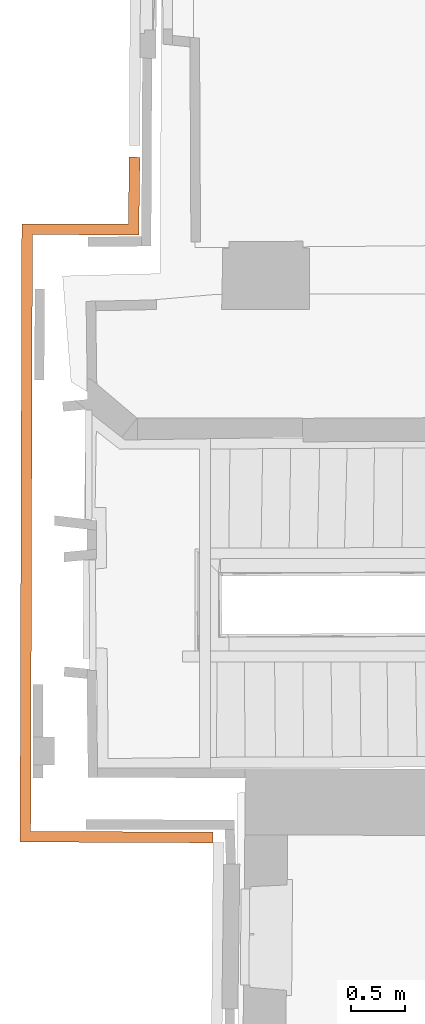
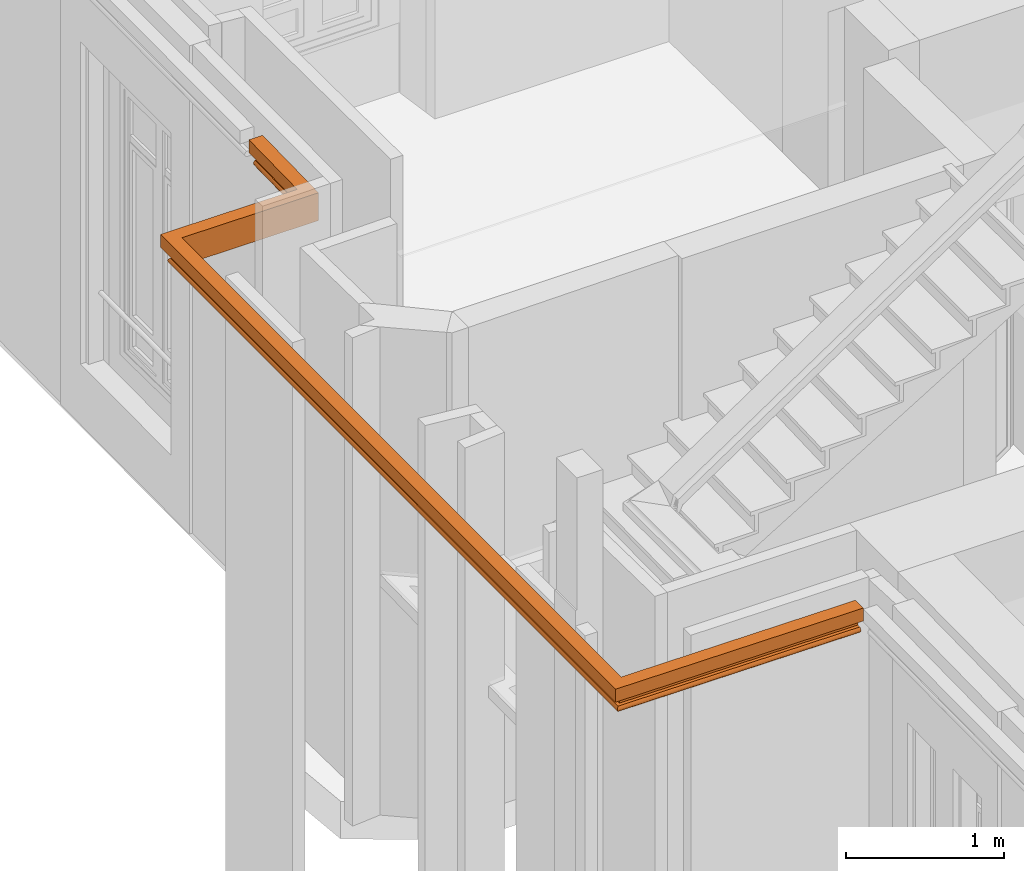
# One storey, part 63 of 66: 1 proxy.
"""IFC2X3 building model written with IfcOpenShell, lengths in centimetres."""

from ifc_helpers import new_model, entity, si_unit, converted_unit, direction, frame, origin, origin_with_axes, place, context, subcontext, project, spatial, faceted_brep, material, type_object, element, save


model = new_model("IFC2X3")

# Units and contexts
model_context = context("Model", 3, precision=0.0001, world=origin(), true_north=direction((0.225632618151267, 0.974212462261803, 0.0)))
body_context = subcontext(model_context, "Body", "Model", "MODEL_VIEW")
ifc_project = project(units=[si_unit("LENGTHUNIT", "METRE", prefix="CENTI"), si_unit("AREAUNIT", "SQUARE_METRE", prefix="CENTI"), si_unit("VOLUMEUNIT", "CUBIC_METRE", prefix="CENTI"), converted_unit("PLANEANGLEUNIT", "DEGREE", entity("IfcRatioMeasure", 0.0174532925), si_unit("PLANEANGLEUNIT", "RADIAN"), dimensions=[0, 0, 0, 0, 0, 0, 0])], contexts=[model_context])

# Site, building, storey
site_placement = place(None, origin_with_axes())
site = spatial("IfcSite", under=ifc_project, at=site_placement, Name="Default Site", CompositionType="ELEMENT")
building_placement = place(site_placement, origin_with_axes())
building = spatial("IfcBuilding", under=site, at=building_placement, Name="Default Building", CompositionType="ELEMENT")
storey_placement = place(building_placement, frame((0.0, 0.0, 477.795358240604), z_axis=(0.0, 0.0, 1.0), x_axis=(1.0, 0.0, 0.0)))
storey = spatial("IfcBuildingStorey", under=building, at=storey_placement, Name="Niveau 1", CompositionType="ELEMENT", Elevation=477.795358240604)

# Proxy
ifc_material = material(Name="Aluminium mat")
building_element_proxy_type = type_object("IfcBuildingElementProxyType", Name="Corniche niv1", PredefinedType="NOTDEFINED", material=ifc_material)
proxy_placement = place(storey_placement, origin_with_axes())
element("IfcBuildingElementProxy", 1, at=proxy_placement, inside=storey, type_object=building_element_proxy_type, material=ifc_material, Name="Extrusion (solide) 449947", context=body_context, shape_type="Brep", body=[
    faceted_brep([(-1361.89584732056, -342.840051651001, 363.400034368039), (-1371.91095352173, -352.781081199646, 363.400034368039), (-1191.69054031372, -353.596115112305, 363.400034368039), (-1191.64533615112, -343.610000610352, 363.400034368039), (-1371.91095352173, -352.781081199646, 353.399996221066), (-1191.69054027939, -353.596107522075, 353.399996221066), (-1191.69054027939, -353.596107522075, 363.400034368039), (-1364.90459442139, -345.826482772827, 353.399996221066), (-1191.65897369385, -346.609973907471, 353.399996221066), (-1191.69054031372, -353.596115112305, 353.399996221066), (-1364.90459442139, -345.826482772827, 346.100000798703), (-1191.65897365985, -346.609966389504, 346.100000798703), (-1191.65897365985, -346.609966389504, 353.399996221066), (-1367.38014221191, -348.283791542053, 346.100000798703), (-1191.67013168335, -349.078416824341, 346.100000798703), (-1191.65897369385, -346.609973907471, 346.100000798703), (-1367.73767466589, -348.638643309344, 345.875584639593), (-1191.67175287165, -349.434887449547, 345.875580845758), (-1191.67013168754, -349.078417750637, 346.100002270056), (-1367.73767471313, -348.638653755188, 345.875601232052), (-1368.04809578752, -348.946828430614, 345.589900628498), (-1191.67308817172, -349.744460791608, 345.589903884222), (-1191.67175291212, -349.434896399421, 345.875597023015), (-1368.04809570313, -348.946809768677, 345.589880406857), (-1368.30110542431, -349.197895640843, 345.252553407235), (-1191.6742324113, -349.996670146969, 345.252553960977), (-1191.67308809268, -349.744443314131, 345.589883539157), (-1368.30110549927, -349.197912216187, 345.252565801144), (-1368.48812111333, -349.383562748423, 344.87482420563), (-1191.67509090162, -350.183177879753, 344.874827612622), (-1191.67423248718, -349.996686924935, 345.252566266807), (-1368.48812103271, -349.383544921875, 344.874815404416), (-1368.60294329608, -349.497457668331, 344.469496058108), (-1191.67566287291, -350.297591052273, 344.469496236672), (-1191.67509082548, -350.183161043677, 344.874817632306), (-1368.60294342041, -349.497485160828, 344.469503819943), (-1368.64156735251, -349.535897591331, 344.049984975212), (-1191.67575841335, -350.336205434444, 344.049983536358), (-1191.67566299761, -350.297618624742, 344.469503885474), (-1368.64156723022, -349.535870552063, 344.049982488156), (-1368.60294333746, -349.497466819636, 343.630558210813), (-1191.67566291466, -350.29760028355, 343.630558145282), (-1191.67575829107, -350.336178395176, 344.04998392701), (-1368.60294342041, -349.497485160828, 343.6305565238), (-1368.48812104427, -349.383547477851, 343.225148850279), (-1191.67509083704, -350.183163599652, 343.225146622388), (-1191.67566299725, -350.29761854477, 343.630556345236), (-1368.48812103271, -349.383544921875, 343.225149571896), (-1368.30110558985, -349.197932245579, 342.847484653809), (-1191.67423257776, -349.996706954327, 342.847484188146), (-1191.675090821, -350.183160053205, 343.225146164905), (-1368.30110549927, -349.197912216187, 342.847494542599), (-1368.04809557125, -348.946780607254, 342.510106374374), (-1191.6730879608, -349.744414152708, 342.510103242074), (-1191.67423248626, -349.996686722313, 342.847493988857), (-1368.04809570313, -348.946809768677, 342.510084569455), (-1367.73767484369, -348.638682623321, 342.224427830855), (-1191.67175304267, -349.434925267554, 342.224432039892), (-1191.67308808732, -349.74444212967, 342.51008131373), (-1367.73767471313, -348.638653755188, 342.224459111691), (-1367.3801420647, -348.283758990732, 342.000015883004), (-1191.67013154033, -349.078385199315, 342.000014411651), (-1191.67175291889, -349.434897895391, 342.224462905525), (-1367.38014221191, -348.283791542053, 341.999964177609), (-1361.89584732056, -342.840051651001, 341.999964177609), (-1191.64533615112, -343.610000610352, 341.999964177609), (-1191.67013168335, -349.078416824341, 341.999964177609), (-1191.64533610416, -343.609990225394, 363.400034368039), (-1191.64533610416, -343.609990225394, 341.999964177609), (-1360.28003692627, 214.219999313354, 363.400034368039), (-1370.237159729, 224.235129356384, 363.400034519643), (-1371.91095352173, -352.781081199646, 363.400030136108), (-1361.89584732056, -342.840051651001, 363.400030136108), (-1370.237159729, 224.235129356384, 363.400034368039), (-1370.23715980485, 224.235129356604, 353.399996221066), (-1371.91093008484, -352.78108126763, 353.399996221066), (-1371.91093000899, -352.78108126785, 363.400034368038), (-1370.237159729, 224.235129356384, 353.399996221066), (-1363.27133178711, 217.228698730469, 353.399996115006), (-1364.90459442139, -345.826482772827, 353.399991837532), (-1371.91095352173, -352.781081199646, 353.399991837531), (-1363.27133178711, 217.228698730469, 353.399996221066), (-1363.27133184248, 217.228698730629, 346.100000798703), (-1364.90460489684, -345.826482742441, 346.100000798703), (-1364.90460484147, -345.826482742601, 353.399996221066), (-1363.27133178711, 217.228698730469, 346.100000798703), (-1365.73257446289, 219.70431804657, 346.100000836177), (-1367.38014221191, -348.283791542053, 346.099996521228), (-1364.90459442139, -345.826482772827, 346.099996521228), (-1365.73257446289, 219.70431804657, 346.100000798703), (-1366.08799999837, 220.061826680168, 345.875587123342), (-1367.73765894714, -348.638653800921, 345.875576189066), (-1367.38014432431, -348.283791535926, 346.100004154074), (-1366.08800888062, 220.061826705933, 345.875601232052), (-1366.39671035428, 220.372271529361, 345.589877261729), (-1368.04811845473, -348.946809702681, 345.589905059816), (-1367.73766459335, -348.638653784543, 345.875590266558), (-1366.39671325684, 220.372271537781, 345.589880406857), (-1366.64819815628, 220.625257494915, 345.252566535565), (-1368.30110240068, -349.197912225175, 345.252563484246), (-1368.04813245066, -348.946809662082, 345.589907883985), (-1366.64819717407, 220.625257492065, 345.252565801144), (-1366.83415607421, 220.812273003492, 344.87481165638), (-1368.48813482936, -349.383544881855, 344.874822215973), (-1368.30110123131, -349.197912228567, 345.252563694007), (-1366.83416366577, 220.812273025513, 344.874815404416), (-1366.94825717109, 220.927047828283, 344.46951343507), (-1368.60291081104, -349.497485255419, 344.469494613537), (-1368.48814651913, -349.383544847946, 344.874822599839), (-1366.94822311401, 220.927047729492, 344.469503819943), (-1366.98669842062, 220.965742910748, 344.049977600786), (-1368.64157074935, -349.535870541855, 344.049982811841), (-1368.60287292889, -349.497485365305, 344.469497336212), (-1366.9867515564, 220.96574306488, 344.049982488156), (-1366.9482849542, 220.927047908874, 343.63055083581), (-1368.6029355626, -349.497485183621, 343.630557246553), (-1368.64162467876, -349.53587038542, 344.049977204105), (-1366.94822311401, 220.927047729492, 343.6305565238), (-1366.83410468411, 220.812272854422, 343.225166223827), (-1368.48808983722, -349.383545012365, 343.225158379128), (-1368.60287905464, -349.497485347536, 343.630574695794), (-1366.83416366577, 220.812273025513, 343.225149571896), (-1366.64824263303, 220.62525762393, 342.847472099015), (-1368.30115014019, -349.197912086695, 342.847472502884), (-1368.48814587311, -349.38354484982, 343.225137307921), (-1366.64819717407, 220.625257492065, 342.847494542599), (-1366.39666653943, 220.372271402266, 342.510119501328), (-1368.04808987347, -348.946809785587, 342.510088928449), (-1368.30110556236, -349.197912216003, 342.847494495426), (-1366.39671325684, 220.372271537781, 342.510084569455), (-1366.08805931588, 220.061826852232, 342.224404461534), (-1367.73771933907, -348.63865362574, 342.22441075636), (-1368.04812567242, -348.946809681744, 342.510052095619), (-1366.08800888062, 220.061826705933, 342.224459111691), (-1365.73254035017, 219.704317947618, 342.000018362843), (-1367.3801141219, -348.283791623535, 342.000008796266), (-1367.73767174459, -348.638653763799, 342.224463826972), (-1365.73257446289, 219.70431804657, 341.999964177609), (-1360.28003692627, 214.219999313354, 341.99996409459), (-1361.89584732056, -342.840051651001, 341.999959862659), (-1367.38014221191, -348.283791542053, 341.999959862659), (-1360.28003692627, 214.219999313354, 341.999964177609), (-1360.28003676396, 214.219999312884, 363.400034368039), (-1361.89591954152, -342.840051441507, 363.400034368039), (-1361.89591970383, -342.840051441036, 341.999964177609), (-1260.97440719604, 213.931941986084, 363.400034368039), (-1270.81871032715, 223.946762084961, 363.400034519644), (-1370.237159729, 224.235129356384, 363.400034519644), (-1270.81871032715, 223.946762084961, 363.400034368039), (-1270.81871032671, 223.946762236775, 353.399996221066), (-1370.23715967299, 224.235148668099, 353.399996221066), (-1370.23715967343, 224.235148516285, 363.400034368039), (-1270.81871032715, 223.946762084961, 353.399996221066), (-1263.93175125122, 216.940522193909, 353.399996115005), (-1263.93175125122, 216.940522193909, 353.399996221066), (-1263.9317512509, 216.940522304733, 346.100000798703), (-1363.27133184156, 217.228679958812, 346.100000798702), (-1363.27133184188, 217.228679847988, 353.399996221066), (-1263.93175125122, 216.940522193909, 346.100000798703), (-1266.36514663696, 219.416093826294, 346.100000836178), (-1365.73257446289, 219.70431804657, 346.100000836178), (-1266.36514663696, 219.416093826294, 346.100000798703), (-1266.71657564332, 219.773571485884, 345.875589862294), (-1366.08800889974, 220.061820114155, 345.875590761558), (-1365.73257445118, 219.704322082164, 346.100007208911), (-1266.71657562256, 219.773578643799, 345.875601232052), (-1267.02175135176, 220.084041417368, 345.589899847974), (-1366.39671318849, 220.372295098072, 345.58990593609), (-1366.08800887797, 220.061827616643, 345.875602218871), (-1267.02175140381, 220.084023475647, 345.589880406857), (-1267.27037433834, 220.336971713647, 345.252555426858), (-1366.64819722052, 220.625241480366, 345.252553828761), (-1366.39671323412, 220.37227936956, 345.589886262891), (-1267.2703742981, 220.336985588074, 345.252565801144), (-1267.45424266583, 220.524015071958, 344.8748222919), (-1366.83416361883, 220.812289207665, 344.874823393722), (-1366.64819718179, 220.625254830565, 345.252564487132), (-1267.4542427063, 220.524001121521, 344.874815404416), (-1267.56706242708, 220.638758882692, 344.469499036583), (-1366.94822314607, 220.927036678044, 344.469500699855), (-1366.83416365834, 220.812275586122, 344.874816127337), (-1267.56706237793, 220.6387758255, 344.469503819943), (-1267.60501861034, 220.677473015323, 344.049982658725), (-1366.98675152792, 220.965752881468, 344.049983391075), (-1366.94822309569, 220.927054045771, 344.469504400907), (-1267.60501861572, 220.677471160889, 344.049982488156), (-1267.56706235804, 220.638782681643, 343.63055589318), (-1366.9482230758, 220.927060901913, 343.630555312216), (-1366.9867515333, 220.965751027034, 344.049981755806), (-1267.56706237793, 220.6387758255, 343.6305565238), (-1267.45424272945, 220.523993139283, 343.225151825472), (-1366.8341636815, 220.812267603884, 343.225151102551), (-1366.94822309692, 220.927053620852, 343.630554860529), (-1267.4542427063, 220.524001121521, 343.225149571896), (-1267.27037422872, 220.3370095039, 342.847482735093), (-1366.64819711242, 220.625278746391, 342.847484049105), (-1366.8341636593, 220.812275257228, 343.225148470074), (-1267.2703742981, 220.336985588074, 342.847494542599), (-1267.02175149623, 220.083991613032, 342.510108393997), (-1366.39671332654, 220.372247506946, 342.510102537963), (-1366.64819718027, 220.625255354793, 342.847496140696), (-1267.02175140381, 220.084023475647, 342.510084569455), (-1266.7165755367, 219.773608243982, 342.224427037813), (-1366.08800879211, 220.061857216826, 342.224426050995), (-1366.39671324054, 220.372277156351, 342.510078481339), (-1266.71657562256, 219.773578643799, 342.224459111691), (-1266.36514674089, 219.416057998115, 342.000021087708), (-1365.73257455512, 219.704286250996, 342.000014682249), (-1366.08800887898, 220.061827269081, 342.224458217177), (-1266.36514663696, 219.416093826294, 341.999964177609), (-1260.97440719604, 213.931941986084, 341.999964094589), (-1260.97440719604, 213.931941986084, 341.999964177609), (-1260.97440719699, 213.931941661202, 363.400034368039), (-1360.28003692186, 214.220000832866, 363.400034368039), (-1360.28003692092, 214.220001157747, 341.999964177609), (-1259.93995666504, 286.400008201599, 363.400034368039), (-1269.92521286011, 286.542534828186, 363.400034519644), (-1269.92521286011, 286.542534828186, 363.400034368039), (-1269.92521301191, 286.542534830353, 353.399996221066), (-1270.81869792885, 223.946761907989, 353.399996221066), (-1270.81869777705, 223.946761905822, 363.400034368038), (-1269.92521286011, 286.542534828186, 353.399996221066), (-1262.93973922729, 286.442828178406, 353.399996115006), (-1262.93973922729, 286.442828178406, 353.399996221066), (-1262.93973933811, 286.442828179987, 346.100000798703), (-1263.93180730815, 216.940522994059, 346.100000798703), (-1263.93180719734, 216.940522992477, 353.399996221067), (-1262.93973922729, 286.442828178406, 346.100000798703), (-1265.40794372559, 286.478042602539, 346.100000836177), (-1266.36514663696, 219.416093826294, 346.100000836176), (-1263.93175125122, 216.940522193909, 346.100000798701), (-1265.40794372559, 286.478042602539, 346.100000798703), (-1265.76433580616, 286.483144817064, 345.875607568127), (-1266.7165684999, 219.773578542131, 345.875589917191), (-1266.36515560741, 219.416093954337, 346.100015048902), (-1265.76433181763, 286.483144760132, 345.875601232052), (-1266.07389597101, 286.487555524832, 345.58988200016), (-1267.02174342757, 220.084023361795, 345.589871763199), (-1266.71655761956, 219.773578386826, 345.875581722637), (-1266.07389450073, 286.487555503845, 345.589880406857), (-1266.32610652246, 286.491155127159, 345.252539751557), (-1267.27036771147, 220.336985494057, 345.252560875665), (-1267.02173822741, 220.084023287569, 345.589870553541), (-1266.32614135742, 286.49115562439, 345.252565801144), (-1266.51261386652, 286.493826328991, 344.874829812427), (-1267.45426200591, 220.524001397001, 344.874824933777), (-1267.27040975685, 220.336986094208, 345.252583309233), (-1266.51258468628, 286.493825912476, 344.874815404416), (-1266.62700362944, 286.495446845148, 344.469497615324), (-1267.56703466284, 220.638775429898, 344.469495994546), (-1267.45423131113, 220.524000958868, 344.874812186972), (-1266.62702560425, 286.495447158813, 344.469503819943), (-1266.66560818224, 286.495996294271, 344.049987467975), (-1267.6050940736, 220.677472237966, 344.049989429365), (-1267.56705623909, 220.638775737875, 344.469503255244), (-1266.66555404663, 286.495995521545, 344.049982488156), (-1266.62698018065, 286.495446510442, 343.630560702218), (-1267.56701075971, 220.638775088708, 343.630561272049), (-1267.60503988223, 220.677471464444, 344.049980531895), (-1266.62702560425, 286.495447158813, 343.6305565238), (-1266.51258173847, 286.493825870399, 343.225150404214), (-1267.45422836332, 220.524000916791, 343.225153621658), (-1267.56705663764, 220.638775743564, 343.630558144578), (-1266.51258468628, 286.493825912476, 343.225149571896), (-1266.32615003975, 286.49115574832, 342.84749025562), (-1267.27041843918, 220.336986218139, 342.847472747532), (-1267.45423282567, 220.524000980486, 343.225154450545), (-1266.32614135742, 286.49115562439, 342.847494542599), (-1266.07388360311, 286.487555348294, 342.510092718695), (-1267.02172732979, 220.084023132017, 342.510102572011), (-1267.27040254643, 220.336985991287, 342.847473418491), (-1266.07389450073, 286.487555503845, 342.510084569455), (-1265.76437788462, 286.483145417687, 342.224409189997), (-1266.71660372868, 219.773579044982, 342.224428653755), (-1267.02174199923, 220.084023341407, 342.510094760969), (-1265.76433181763, 286.483144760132, 342.224459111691), (-1265.40789674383, 286.478041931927, 342.000038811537), (-1266.36510864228, 219.416093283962, 342.00002453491), (-1266.71656452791, 219.773578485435, 342.224476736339), (-1265.40794372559, 286.478042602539, 341.999964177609), (-1259.93995666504, 286.400008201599, 341.999964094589), (-1260.97440719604, 213.931941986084, 341.999964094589), (-1266.36514663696, 219.416093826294, 341.999964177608), (-1259.93995666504, 286.400008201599, 341.999964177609), (-1259.93995634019, 286.400008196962, 363.400034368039), (-1260.97435725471, 213.931941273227, 363.400034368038), (-1260.97435757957, 213.931941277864, 341.999964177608), (-1191.69049721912, -353.596115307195, 363.400034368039), (-1191.69049721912, -353.596115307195, 353.399996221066), (-1191.65890319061, -346.609974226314, 353.399996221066), (-1191.65890319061, -346.609974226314, 346.100000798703), (-1191.67006644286, -349.078417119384, 346.100000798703), (-1191.67167859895, -349.434900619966, 345.875601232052), (-1191.67307845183, -349.744439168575, 345.589880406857), (-1191.67421920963, -349.996686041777, 345.252565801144), (-1191.67506248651, -350.183153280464, 344.874815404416), (-1191.67558014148, -350.297618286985, 344.469503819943), (-1191.67575459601, -350.336194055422, 344.049982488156), (-1191.67558014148, -350.297618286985, 343.6305565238), (-1191.67506248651, -350.183153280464, 343.225149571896), (-1191.67421920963, -349.996686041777, 342.847494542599), (-1191.67307845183, -349.744439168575, 342.510084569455), (-1191.67167859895, -349.434900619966, 342.224459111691), (-1191.67006644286, -349.078417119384, 341.999964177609), (-1265.40794351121, 286.478057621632, 341.999964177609), (-1265.76433181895, 286.483144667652, 342.224459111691), (-1266.07389438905, 286.487563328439, 342.510084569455), (-1266.32614123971, 286.49116387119, 342.847494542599), (-1266.51258469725, 286.493825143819, 343.225149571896), (-1266.62702544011, 286.495458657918, 343.6305565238), (-1266.66555385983, 286.496008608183, 344.049982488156), (-1266.62702544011, 286.495458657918, 344.469503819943), (-1266.51258469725, 286.493825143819, 344.874815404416), (-1266.32614123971, 286.49116387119, 345.252565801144), (-1266.07389438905, 286.487563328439, 345.589880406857), (-1265.76433181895, 286.483144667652, 345.875601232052), (-1265.40794351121, 286.478057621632, 346.100000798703), (-1262.9397392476, 286.442826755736, 346.100000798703), (-1262.9397392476, 286.442826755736, 353.399996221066), (-1269.9252128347, 286.542536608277, 353.399996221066), (-1269.9252128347, 286.542536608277, 363.400034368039)], [[[0, 1, 2, 3]], [[1, 4, 5, 6]], [[4, 7, 8, 9]], [[7, 10, 11, 12]], [[10, 13, 14, 15]], [[13, 16, 17, 18]], [[19, 20, 21, 22]], [[23, 24, 25, 26]], [[27, 28, 29, 30]], [[31, 32, 33, 34]], [[35, 36, 37, 38]], [[39, 40, 41, 42]], [[43, 44, 45, 46]], [[47, 48, 49, 50]], [[51, 52, 53, 54]], [[55, 56, 57, 58]], [[59, 60, 61, 62]], [[63, 64, 65, 66]], [[64, 0, 67, 68]], [[69, 70, 71, 72]], [[73, 74, 75, 76]], [[77, 78, 79, 80]], [[81, 82, 83, 84]], [[85, 86, 87, 88]], [[89, 90, 91, 92]], [[93, 94, 95, 96]], [[97, 98, 99, 100]], [[101, 102, 103, 104]], [[105, 106, 107, 108]], [[109, 110, 111, 112]], [[113, 114, 115, 116]], [[117, 118, 119, 120]], [[121, 122, 123, 124]], [[125, 126, 127, 128]], [[129, 130, 131, 132]], [[133, 134, 135, 136]], [[137, 138, 139, 140]], [[141, 142, 143, 144]], [[145, 146, 147, 69]], [[148, 149, 150, 151]], [[152, 153, 78, 77]], [[154, 155, 156, 157]], [[158, 159, 160, 85]], [[161, 162, 163, 164]], [[165, 166, 167, 168]], [[169, 170, 171, 172]], [[173, 174, 175, 176]], [[177, 178, 179, 180]], [[181, 182, 183, 184]], [[185, 186, 187, 188]], [[189, 190, 191, 192]], [[193, 194, 195, 196]], [[197, 198, 199, 200]], [[201, 202, 203, 204]], [[205, 206, 207, 208]], [[209, 210, 138, 137]], [[211, 212, 213, 214]], [[215, 216, 146, 145]], [[217, 218, 219, 220]], [[221, 222, 153, 152]], [[223, 224, 225, 226]], [[227, 228, 229, 230]], [[231, 232, 233, 234]], [[235, 236, 237, 238]], [[239, 240, 241, 242]], [[243, 244, 245, 246]], [[247, 248, 249, 250]], [[251, 252, 253, 254]], [[255, 256, 257, 258]], [[259, 260, 261, 262]], [[263, 264, 265, 266]], [[267, 268, 269, 270]], [[271, 272, 273, 274]], [[275, 276, 277, 278]], [[279, 280, 281, 282]], [[283, 284, 285, 286]], [[3, 287, 288, 289, 290, 291, 292, 293, 294, 295, 296, 297, 298, 299, 300, 301, 302, 303, 65]], [[283, 304, 305, 306, 307, 308, 309, 310, 311, 312, 313, 314, 315, 316, 317, 318, 319, 320, 215]]]),
])

save(model, "model.ifc")
